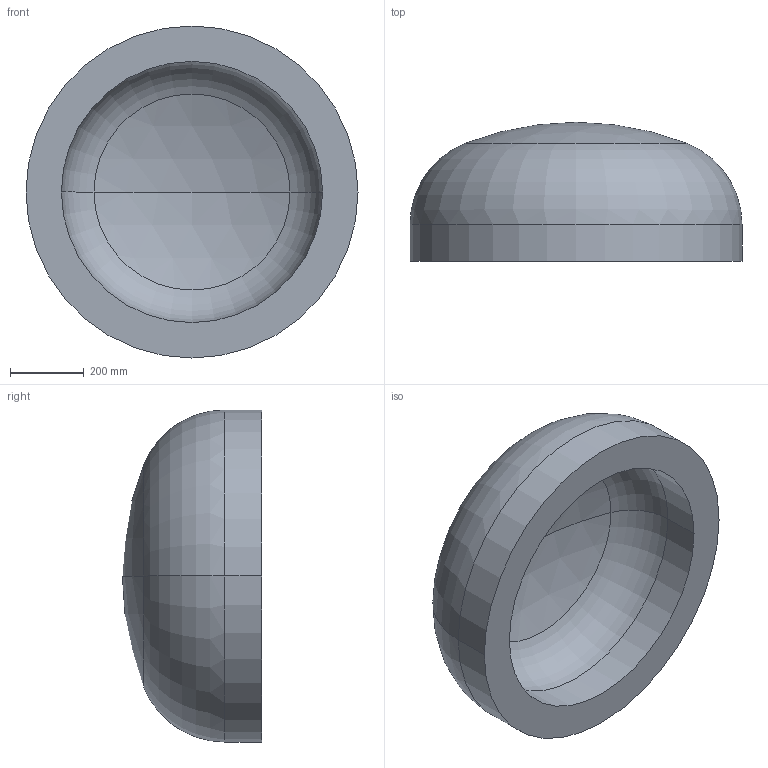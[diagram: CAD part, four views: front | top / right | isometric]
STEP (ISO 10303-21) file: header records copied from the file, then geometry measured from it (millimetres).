
FILE_DESCRIPTION (( 'STEP AP203' ), '1' );
FILE_NAME ('DIN 28013 Korbbogenform_-_Boden DIN 28013 - 900 x 100 - I - s=96.step', '2016-07-01T08:38:07', ( '' ), ( '' ), 'SwSTEP 2.0', 'SolidWorks 2013', '' );
FILE_SCHEMA (( 'CONFIG_CONTROL_DESIGN' ));
Length unit declared in the file: millimetre
Products named in the file (1): DIN 28013 Korbbogenform_-_Boden DIN 28013 - 900 x 100 - I - s=96
Bounding box: 900 x 376.92 x 900 mm (x, y, z)
Volume: 98576935.1 mm3; surface area: 2315468.5 mm2
Topology: 1 solids, 1 shells, 13 faces, 24 edges, 14 vertices
Faces by surface type: torus 4, cylinder 4, sphere 4, plane 1
Entity records: 407 total; most frequent: DIRECTION 72, CARTESIAN_POINT 52, ORIENTED_EDGE 48, AXIS2_PLACEMENT_3D 34, EDGE_CURVE 24, CIRCLE 20, VERTEX_POINT 14, EDGE_LOOP 14
